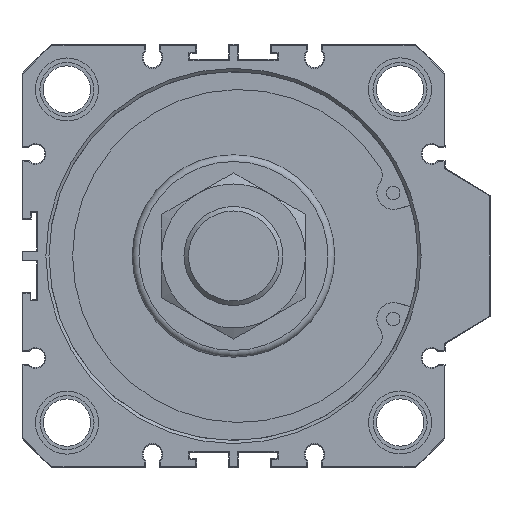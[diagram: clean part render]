
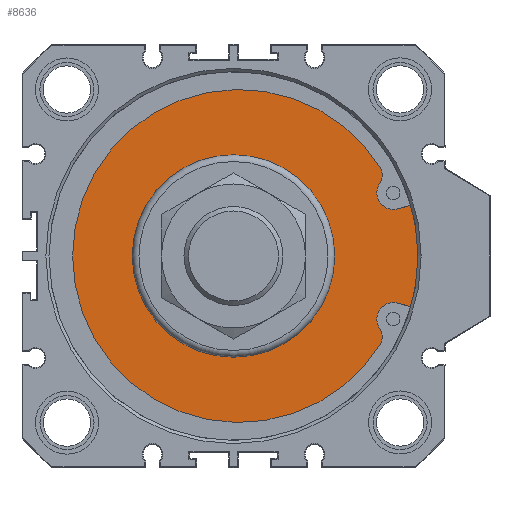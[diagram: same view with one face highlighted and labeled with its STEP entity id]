
A CAD part, front view. The second image highlights one B-rep face of the part: STEP entity #8636.
In plain terms, the highlighted planar face has unit normal (0, -1, 0).
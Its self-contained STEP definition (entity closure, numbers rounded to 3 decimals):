
#38=LINE('',#11704,#624);
#39=LINE('',#11716,#625);
#624=VECTOR('',#9853,1000.);
#625=VECTOR('',#9864,1000.);
#1586=ORIENTED_EDGE('',*,*,#3136,.T.);
#1587=ORIENTED_EDGE('',*,*,#3140,.F.);
#1588=ORIENTED_EDGE('',*,*,#3141,.T.);
#1589=ORIENTED_EDGE('',*,*,#3142,.T.);
#1590=ORIENTED_EDGE('',*,*,#3143,.T.);
#1591=ORIENTED_EDGE('',*,*,#3144,.T.);
#1592=ORIENTED_EDGE('',*,*,#3145,.T.);
#1593=ORIENTED_EDGE('',*,*,#3146,.T.);
#1594=ORIENTED_EDGE('',*,*,#3147,.T.);
#3136=EDGE_CURVE('',#3936,#3936,#4408,.T.);
#3140=EDGE_CURVE('',#3940,#3941,#4412,.T.);
#3141=EDGE_CURVE('',#3940,#3942,#38,.T.);
#3142=EDGE_CURVE('',#3942,#3943,#4413,.T.);
#3143=EDGE_CURVE('',#3943,#3944,#4414,.T.);
#3144=EDGE_CURVE('',#3944,#3945,#4415,.T.);
#3145=EDGE_CURVE('',#3945,#3946,#4416,.T.);
#3146=EDGE_CURVE('',#3946,#3947,#4417,.T.);
#3147=EDGE_CURVE('',#3947,#3941,#39,.T.);
#3936=VERTEX_POINT('',#11690);
#3940=VERTEX_POINT('',#11702);
#3941=VERTEX_POINT('',#11703);
#3942=VERTEX_POINT('',#11705);
#3943=VERTEX_POINT('',#11707);
#3944=VERTEX_POINT('',#11709);
#3945=VERTEX_POINT('',#11711);
#3946=VERTEX_POINT('',#11713);
#3947=VERTEX_POINT('',#11715);
#4408=CIRCLE('',#9099,22.5);
#4412=CIRCLE('',#9107,42.75);
#4413=CIRCLE('',#9108,3.655);
#4414=CIRCLE('',#9109,3.556);
#4415=CIRCLE('',#9110,37.);
#4416=CIRCLE('',#9111,3.556);
#4417=CIRCLE('',#9112,3.655);
#4650=EDGE_LOOP('',(#1586));
#4651=EDGE_LOOP('',(#1587,#1588,#1589,#1590,#1591,#1592,#1593,#1594));
#5128=FACE_BOUND('',#4650,.T.);
#5129=FACE_BOUND('',#4651,.T.);
#5529=PLANE('',#9106);
#8636=ADVANCED_FACE('',(#5128,#5129),#5529,.F.);
#9099=AXIS2_PLACEMENT_3D('',#11689,#9835,#9836);
#9106=AXIS2_PLACEMENT_3D('',#11700,#9849,#9850);
#9107=AXIS2_PLACEMENT_3D('',#11701,#9851,#9852);
#9108=AXIS2_PLACEMENT_3D('',#11706,#9854,#9855);
#9109=AXIS2_PLACEMENT_3D('',#11708,#9856,#9857);
#9110=AXIS2_PLACEMENT_3D('',#11710,#9858,#9859);
#9111=AXIS2_PLACEMENT_3D('',#11712,#9860,#9861);
#9112=AXIS2_PLACEMENT_3D('',#11714,#9862,#9863);
#9835=DIRECTION('',(0.,1.,0.));
#9836=DIRECTION('',(-1.,0.,0.));
#9849=DIRECTION('',(0.,1.,0.));
#9850=DIRECTION('',(-1.,0.,0.));
#9851=DIRECTION('',(0.,1.,0.));
#9852=DIRECTION('',(-1.,0.,0.));
#9853=DIRECTION('',(-0.966,0.,-0.259));
#9854=DIRECTION('',(0.,1.,0.));
#9855=DIRECTION('',(1.,0.,0.));
#9856=DIRECTION('',(0.,-1.,0.));
#9857=DIRECTION('',(-1.,0.,0.));
#9858=DIRECTION('',(0.,-1.,0.));
#9859=DIRECTION('',(1.,0.,0.));
#9860=DIRECTION('',(0.,-1.,0.));
#9861=DIRECTION('',(-1.,0.,0.));
#9862=DIRECTION('',(0.,1.,0.));
#9863=DIRECTION('',(1.,0.,0.));
#9864=DIRECTION('',(0.966,0.,-0.259));
#11689=CARTESIAN_POINT('',(0.,5.5,0.));
#11690=CARTESIAN_POINT('',(-22.5,5.5,0.));
#11700=CARTESIAN_POINT('',(0.,5.5,-3.67));
#11701=CARTESIAN_POINT('',(0.,5.5,0.));
#11702=CARTESIAN_POINT('',(41.112,5.5,11.72));
#11703=CARTESIAN_POINT('',(41.112,5.5,-11.72));
#11704=CARTESIAN_POINT('',(41.112,5.5,11.72));
#11705=CARTESIAN_POINT('',(36.445,5.5,10.469));
#11706=CARTESIAN_POINT('',(35.499,5.5,14.));
#11707=CARTESIAN_POINT('',(32.311,5.5,15.788));
#11708=CARTESIAN_POINT('',(29.497,5.5,17.962));
#11709=CARTESIAN_POINT('',(32.729,5.5,19.444));
#11710=CARTESIAN_POINT('',(1.25,5.5,0.));
#11711=CARTESIAN_POINT('',(32.729,5.5,-19.444));
#11712=CARTESIAN_POINT('',(29.497,5.5,-17.962));
#11713=CARTESIAN_POINT('',(32.311,5.5,-15.788));
#11714=CARTESIAN_POINT('',(35.499,5.5,-14.));
#11715=CARTESIAN_POINT('',(36.445,5.5,-10.469));
#11716=CARTESIAN_POINT('',(36.445,5.5,-10.469));
